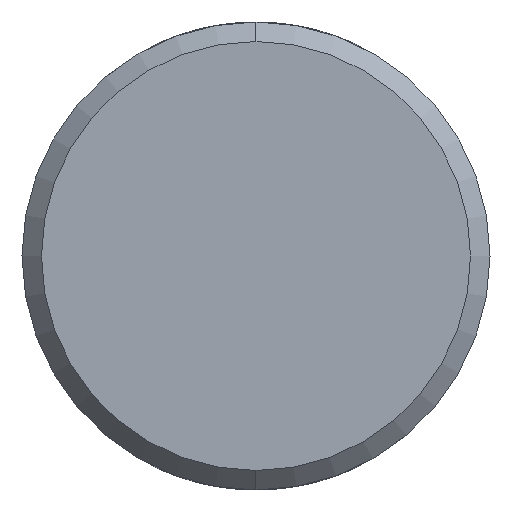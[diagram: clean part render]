
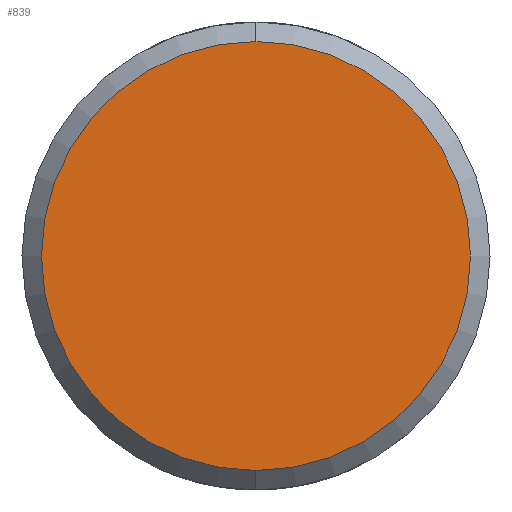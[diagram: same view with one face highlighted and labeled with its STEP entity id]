
A CAD part, left-side view. The second image highlights one B-rep face of the part: STEP entity #839.
In plain terms, the highlighted planar face has unit normal (-1, 0, 0).
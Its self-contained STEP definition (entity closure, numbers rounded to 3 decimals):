
#23 = DIRECTION ( 'NONE',  ( 0., 0., -1. ) ) ;
#28 = ORIENTED_EDGE ( 'NONE', *, *, #409, .T. ) ;
#49 = DIRECTION ( 'NONE',  ( 0., 0., -1. ) ) ;
#88 = AXIS2_PLACEMENT_3D ( 'NONE', #659, #967, #49 ) ;
#109 = CARTESIAN_POINT ( 'NONE',  ( -106., 0., 0. ) ) ;
#115 = CARTESIAN_POINT ( 'NONE',  ( -106., 0., 5.5 ) ) ;
#173 = CARTESIAN_POINT ( 'NONE',  ( -106., 0., -5.5 ) ) ;
#178 = DIRECTION ( 'NONE',  ( -1., 0., 0. ) ) ;
#209 = CIRCLE ( 'NONE', #88, 5.5 ) ;
#248 = DIRECTION ( 'NONE',  ( 0., 0., -1. ) ) ;
#273 = FACE_OUTER_BOUND ( 'NONE', #846, .T. ) ;
#322 = EDGE_CURVE ( 'NONE', #869, #842, #717, .T. ) ;
#409 = EDGE_CURVE ( 'NONE', #842, #869, #209, .T. ) ;
#479 = AXIS2_PLACEMENT_3D ( 'NONE', #109, #178, #248 ) ;
#482 = CARTESIAN_POINT ( 'NONE',  ( -106., 0., 0. ) ) ;
#519 = AXIS2_PLACEMENT_3D ( 'NONE', #482, #550, #23 ) ;
#550 = DIRECTION ( 'NONE',  ( 1., 0., 0. ) ) ;
#659 = CARTESIAN_POINT ( 'NONE',  ( -106., 0., 0. ) ) ;
#717 = CIRCLE ( 'NONE', #479, 5.5 ) ;
#839 = ADVANCED_FACE ( 'NONE', ( #273 ), #864, .F. ) ;
#842 = VERTEX_POINT ( 'NONE', #173 ) ;
#846 = EDGE_LOOP ( 'NONE', ( #28, #921 ) ) ;
#864 = PLANE ( 'NONE',  #519 ) ;
#869 = VERTEX_POINT ( 'NONE', #115 ) ;
#921 = ORIENTED_EDGE ( 'NONE', *, *, #322, .T. ) ;
#967 = DIRECTION ( 'NONE',  ( -1., 0., 0. ) ) ;
